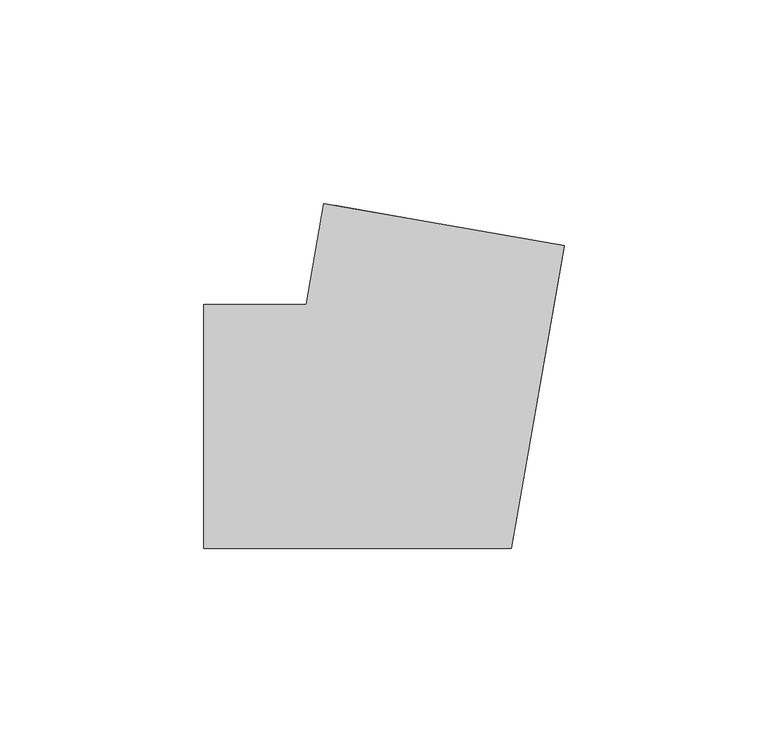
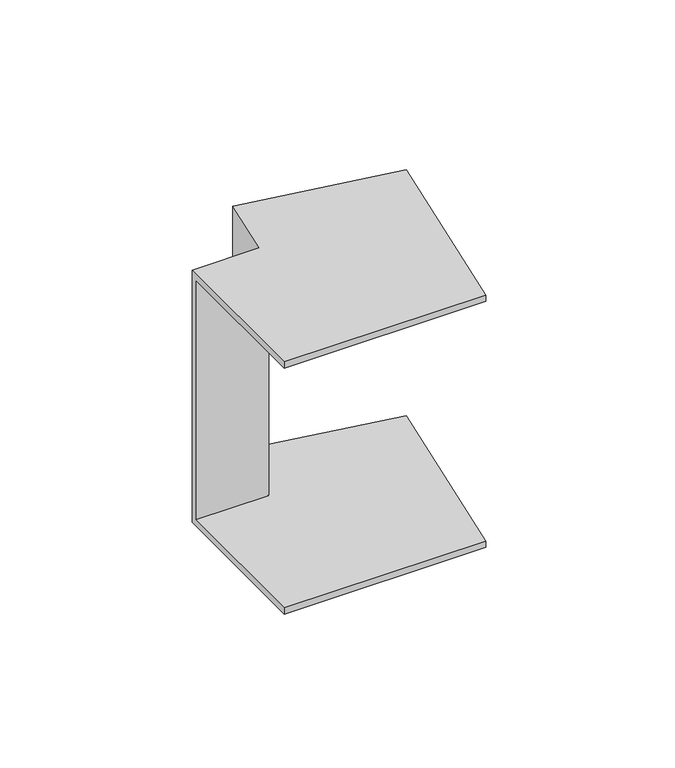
"""IFC4 building model written with IfcOpenShell, lengths in millimetres: cable carrier fitting geometry, КНС_УголВнешний_ILC_DKC : Угол внешний_DKC."""

from ifc_helpers import new_model, si_unit, origin, place, context, project, spatial, faceted_brep, source, transform, mapped, element, save


def cable_carrier_fitting_8d848939(model_context):
    return source(origin(), model_context, "Body", "Brep", [
        faceted_brep([(-50.3459779, 30.0, 50.0), (-50.3459779, 30.0, -50.0), (-50.3459779, -30.0, -50.0), (-50.3459779, -30.0, -47.5), (-50.3459779, 27.5, -47.5), (-50.3459779, 27.5, 47.5), (-50.3459779, -30.0, 47.5), (-50.3459779, -30.0, 50.0), (-20.8017453, 54.7905547, 50.0), (38.2867199, 44.371664, 50.0), (38.2867199, 44.371664, 47.5), (-18.3397259, 54.3564342, 47.5), (-18.3397259, 54.3564342, -47.5), (38.2867199, 44.371664, -47.5), (38.2867199, 44.371664, -50.0), (-20.8017453, 54.7905547, -50.0), (-25.1729889, 30.0, 50.0), (-25.1729889, 30.0, -50.0), (25.1729889, -30.0, -50.0), (25.1729889, -30.0, -47.5), (-23.0752399, 27.5, -47.5), (-23.0752399, 27.5, 47.5), (25.1729889, -30.0, 47.5), (25.1729889, -30.0, 50.0)], [[[0, 1, 2, 3, 4, 5, 6, 7]], [[8, 9, 10, 11, 12, 13, 14, 15]], [[1, 0, 16, 17]], [[2, 1, 17, 15, 14, 18]], [[3, 2, 18, 19]], [[4, 3, 19, 13, 12, 20]], [[5, 4, 20, 21]], [[6, 5, 21, 11, 10, 22]], [[7, 6, 22, 23]], [[0, 7, 23, 9, 8, 16]], [[17, 16, 8, 15]], [[19, 18, 14, 13]], [[21, 20, 12, 11]], [[23, 22, 10, 9]]]),
    ])


if __name__ == "__main__":
    model = new_model("IFC4")
    model_context = context("Model", 3, world=origin())
    ifc_project = project(units=[si_unit("LENGTHUNIT", "METRE", prefix="MILLI")], contexts=[model_context])
    site = spatial("IfcSite", under=ifc_project)
    building = spatial("IfcBuilding", under=site)
    placement = place(None, origin())
    cable_carrier_fitting_shape = cable_carrier_fitting_8d848939(model_context)
    element("IfcCableCarrierFitting", 1, ObjectType="КНС_УголВнешний_ILC_DKC : Угол внешний_DKC", at=placement, inside=building, context=model_context, shape_type="MappedRepresentation", body=[
        mapped(cable_carrier_fitting_shape, transform((0.0, 0.0, 0.0), x_axis=(1.0, 0.0, 0.0), y_axis=(0.0, 1.0, 0.0), z_axis=(0.0, 0.0, 1.0))),
    ])
    save(model, "model.ifc")
